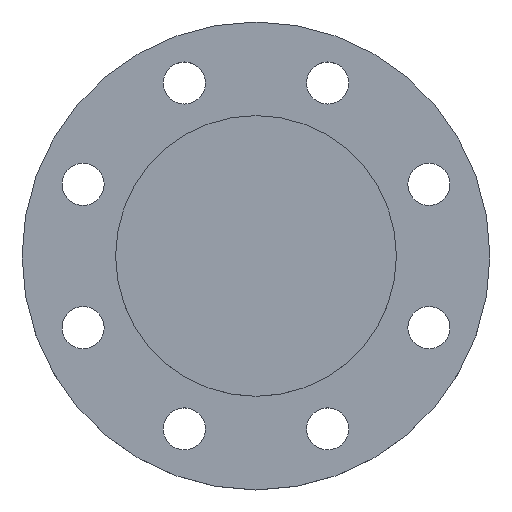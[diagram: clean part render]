
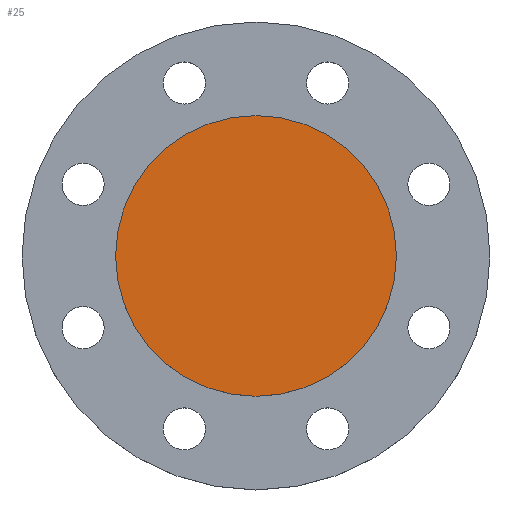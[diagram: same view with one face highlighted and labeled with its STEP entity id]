
A CAD part, top view. The second image highlights one B-rep face of the part: STEP entity #25.
In plain terms, the highlighted planar face has unit normal (0, 0, 1).
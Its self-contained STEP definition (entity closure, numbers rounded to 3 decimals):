
#25 = ADVANCED_FACE ( 'NONE', ( #791 ), #792, .T. ) ;
#43 = EDGE_CURVE ( 'NONE', #540, #526, #93, .T. ) ;
#57 = EDGE_CURVE ( 'NONE', #526, #540, #309, .T. ) ;
#62 = AXIS2_PLACEMENT_3D ( 'NONE', #793, #794, #795 ) ;
#93 = CIRCLE ( 'NONE', #97, 60. ) ;
#97 = AXIS2_PLACEMENT_3D ( 'NONE', #369, #370, #371 ) ;
#201 = CARTESIAN_POINT ( 'NONE',  ( -60., 0., 0. ) ) ;
#219 = CARTESIAN_POINT ( 'NONE',  ( 60., 0., 0. ) ) ;
#309 = CIRCLE ( 'NONE', #316, 60. ) ;
#316 = AXIS2_PLACEMENT_3D ( 'NONE', #410, #411, #412 ) ;
#369 = CARTESIAN_POINT ( 'NONE',  ( 0., 0., 0. ) ) ;
#370 = DIRECTION ( 'NONE',  ( 0., 0., -1. ) ) ;
#371 = DIRECTION ( 'NONE',  ( -1., 0., 0. ) ) ;
#410 = CARTESIAN_POINT ( 'NONE',  ( 0., 0., 0. ) ) ;
#411 = DIRECTION ( 'NONE',  ( 0., 0., -1. ) ) ;
#412 = DIRECTION ( 'NONE',  ( -1., 0., 0. ) ) ;
#526 = VERTEX_POINT ( 'NONE', #219 ) ;
#540 = VERTEX_POINT ( 'NONE', #201 ) ;
#557 = EDGE_LOOP ( 'NONE', ( #675, #676 ) ) ;
#675 = ORIENTED_EDGE ( 'NONE', *, *, #43, .F. ) ;
#676 = ORIENTED_EDGE ( 'NONE', *, *, #57, .F. ) ;
#791 = FACE_OUTER_BOUND ( 'NONE', #557, .T. ) ;
#792 = PLANE ( 'NONE',  #62 ) ;
#793 = CARTESIAN_POINT ( 'NONE',  ( 0., 0., 0. ) ) ;
#794 = DIRECTION ( 'NONE',  ( 0., 0., 1. ) ) ;
#795 = DIRECTION ( 'NONE',  ( 1., 0., 0. ) ) ;
